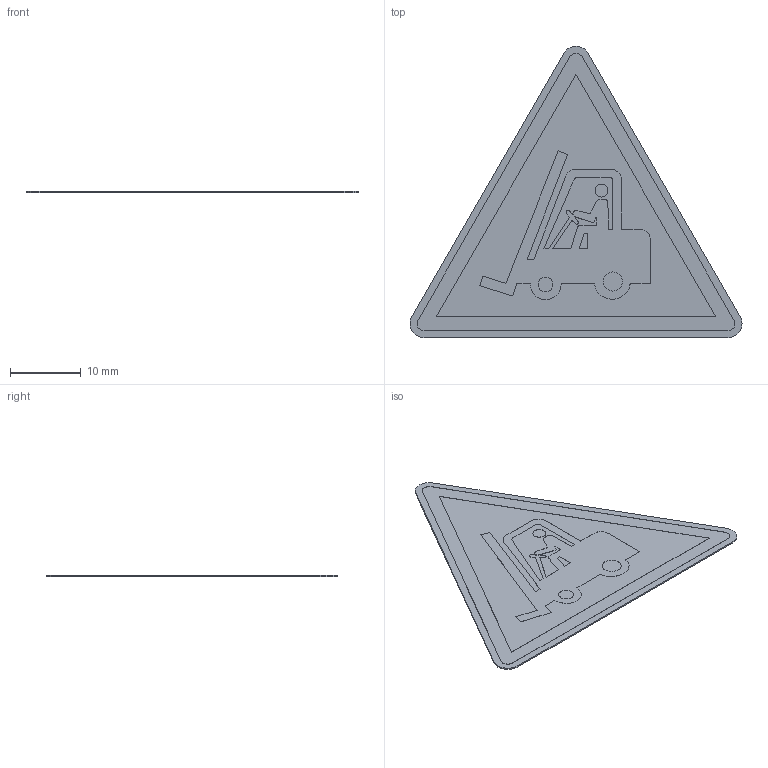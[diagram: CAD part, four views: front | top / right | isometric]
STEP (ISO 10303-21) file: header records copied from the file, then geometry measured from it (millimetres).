
FILE_DESCRIPTION (( 'STEP AP214' ), '1' );
FILE_NAME ('W014_Warnung vor Flurförderzeugen.STEP', '2022-02-22T08:15:25', ( '' ), ( '' ), 'SwSTEP 2.0', 'SolidWorks 2021', '' );
FILE_SCHEMA (( 'AUTOMOTIVE_DESIGN' ));
Length unit declared in the file: millimetre
Products named in the file (1): W014_Warnung vor Flurförderzeugen
Bounding box: 47.07 x 41.3 x 0.22 mm (x, y, z)
Volume: 222 mm3; surface area: 2183.2 mm2
Topology: 1 solids, 1 shells, 76 faces, 195 edges, 130 vertices
Faces by surface type: plane 51, cylinder 14, bspline 11
Entity records: 3362 total; most frequent: CARTESIAN_POINT 849, ORIENTED_EDGE 390, DIRECTION 333, EDGE_CURVE 195, VECTOR 145, LINE 145, VERTEX_POINT 130, AXIS2_PLACEMENT_3D 94
